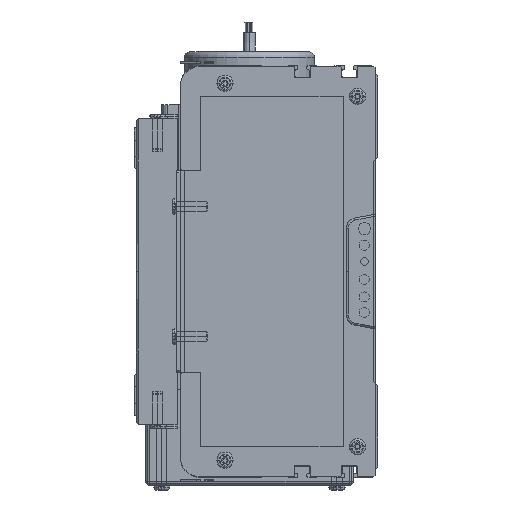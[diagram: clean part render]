
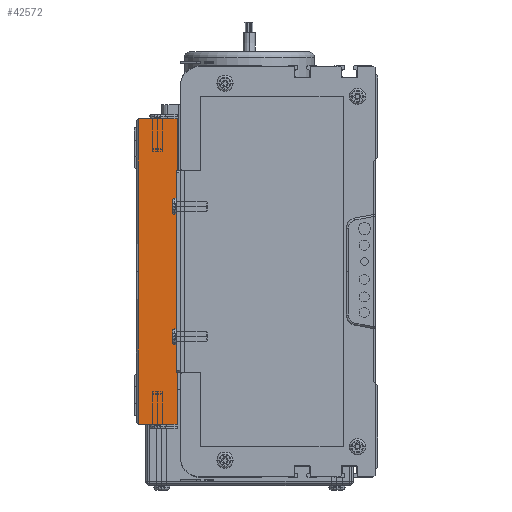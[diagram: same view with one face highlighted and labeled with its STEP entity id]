
A CAD part, left-side view. The second image highlights one B-rep face of the part: STEP entity #42572.
In plain terms, the highlighted planar face has unit normal (-1, 0, 0).
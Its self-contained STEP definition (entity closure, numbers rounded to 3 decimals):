
#42154 = EDGE_CURVE ( 'NONE', #42762, #42783, #79454, .T. ) ;
#42522 = VERTEX_POINT ( 'NONE', #83402 ) ;
#42525 = ORIENTED_EDGE ( 'NONE', *, *, #42816, .T. ) ;
#42533 = ORIENTED_EDGE ( 'NONE', *, *, #42536, .T. ) ;
#42535 = EDGE_CURVE ( 'NONE', #42822, #42720, #83632, .T. ) ;
#42536 = EDGE_CURVE ( 'NONE', #42822, #42522, #83470, .T. ) ;
#42559 = ORIENTED_EDGE ( 'NONE', *, *, #42154, .T. ) ;
#42572 = ADVANCED_FACE ( 'NONE', ( #83735 ), #83565, .F. ) ;
#42574 = EDGE_LOOP ( 'NONE', ( #42743, #42533, #42525, #42559, #42835 ) ) ;
#42720 = VERTEX_POINT ( 'NONE', #83879 ) ;
#42734 = EDGE_CURVE ( 'NONE', #42783, #42720, #84043, .T. ) ;
#42743 = ORIENTED_EDGE ( 'NONE', *, *, #42535, .F. ) ;
#42762 = VERTEX_POINT ( 'NONE', #84020 ) ;
#42783 = VERTEX_POINT ( 'NONE', #83952 ) ;
#42816 = EDGE_CURVE ( 'NONE', #42522, #42762, #84098, .T. ) ;
#42822 = VERTEX_POINT ( 'NONE', #84095 ) ;
#42835 = ORIENTED_EDGE ( 'NONE', *, *, #42734, .T. ) ;
#79078 = DIRECTION ( 'NONE',  ( 0., -1., 0. ) ) ;
#79079 = VECTOR ( 'NONE', #79078, 1000. ) ;
#79450 = CARTESIAN_POINT ( 'NONE',  ( 0., 20., -75. ) ) ;
#79454 = LINE ( 'NONE', #79450, #79079 ) ;
#83402 = CARTESIAN_POINT ( 'NONE',  ( 0., 19., 0. ) ) ;
#83470 = LINE ( 'NONE', #83626, #83623 ) ;
#83505 = VECTOR ( 'NONE', #83517, 1000. ) ;
#83517 = DIRECTION ( 'NONE',  ( 0., -1., 0. ) ) ;
#83556 = DIRECTION ( 'NONE',  ( 0., 0., -1. ) ) ;
#83557 = DIRECTION ( 'NONE',  ( 1., 0., 0. ) ) ;
#83565 = PLANE ( 'NONE',  #83737 ) ;
#83621 = DIRECTION ( 'NONE',  ( 0., 0., -1. ) ) ;
#83623 = VECTOR ( 'NONE', #83621, 1000. ) ;
#83626 = CARTESIAN_POINT ( 'NONE',  ( 0., 19., 0. ) ) ;
#83630 = CARTESIAN_POINT ( 'NONE',  ( 0., 20., 75. ) ) ;
#83632 = LINE ( 'NONE', #83630, #83505 ) ;
#83721 = CARTESIAN_POINT ( 'NONE',  ( 0., 20., 0. ) ) ;
#83735 = FACE_OUTER_BOUND ( 'NONE', #42574, .T. ) ;
#83737 = AXIS2_PLACEMENT_3D ( 'NONE', #83721, #83557, #83556 ) ;
#83879 = CARTESIAN_POINT ( 'NONE',  ( 0., 0., 75. ) ) ;
#83952 = CARTESIAN_POINT ( 'NONE',  ( 0., 0., -75. ) ) ;
#84020 = CARTESIAN_POINT ( 'NONE',  ( 0., 19., -75. ) ) ;
#84034 = DIRECTION ( 'NONE',  ( 0., 0., 1. ) ) ;
#84035 = VECTOR ( 'NONE', #84034, 1000. ) ;
#84041 = CARTESIAN_POINT ( 'NONE',  ( 0., 0., 0. ) ) ;
#84043 = LINE ( 'NONE', #84041, #84035 ) ;
#84095 = CARTESIAN_POINT ( 'NONE',  ( 0., 19., 75. ) ) ;
#84097 = CARTESIAN_POINT ( 'NONE',  ( 0., 19., 0. ) ) ;
#84098 = LINE ( 'NONE', #84097, #84212 ) ;
#84211 = DIRECTION ( 'NONE',  ( 0., 0., -1. ) ) ;
#84212 = VECTOR ( 'NONE', #84211, 1000. ) ;
